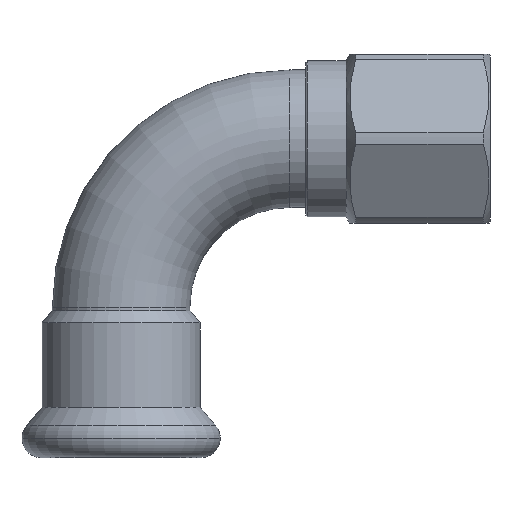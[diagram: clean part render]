
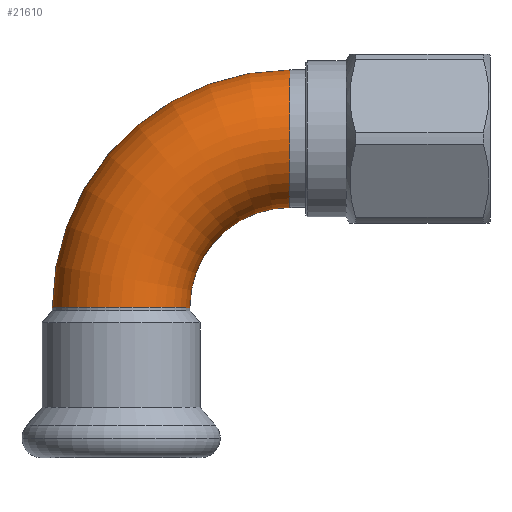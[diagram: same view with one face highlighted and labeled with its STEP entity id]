
A CAD part, top view. The second image highlights one B-rep face of the part: STEP entity #21610.
In plain terms, the highlighted toroidal (fillet/blend) face has major radius 27 mm and minor radius 11 mm.
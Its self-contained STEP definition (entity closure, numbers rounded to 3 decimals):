
#15160=CARTESIAN_POINT('',(-102.071,-225.006,
0.));
#15170=VERTEX_POINT('',#15160);
#15220=CARTESIAN_POINT('',(-113.071,-225.006,
0.));
#15230=DIRECTION('',(0.,-1.,0.));
#15240=DIRECTION('',(1.,0.,0.));
#15250=AXIS2_PLACEMENT_3D('',#15220,#15230,#15240);
#15260=CIRCLE('',#15250,11.);
#15270=CARTESIAN_POINT('',(-124.071,-225.006,
0.));
#15280=VERTEX_POINT('',#15270);
#15580=CARTESIAN_POINT('',(-86.071,-209.006,
0.));
#15590=VERTEX_POINT('',#15580);
#15670=CARTESIAN_POINT('',(-86.071,-187.006,
0.));
#15680=VERTEX_POINT('',#15670);
#15810=CARTESIAN_POINT('',(-86.071,-225.006,
0.));
#15820=DIRECTION('',(0.,0.,1.));
#15830=DIRECTION('',(0.,1.,0.));
#15840=AXIS2_PLACEMENT_3D('',#15810,#15820,#15830);
#15850=TOROIDAL_SURFACE('',#15840,27.,11.);
#15860=CARTESIAN_POINT('',(-86.071,-225.006,
0.));
#15870=DIRECTION('',(0.,0.,1.));
#15880=DIRECTION('',(0.,1.,0.));
#15890=AXIS2_PLACEMENT_3D('',#15860,#15870,#15880);
#15900=CIRCLE('',#15890,16.);
#15910=EDGE_CURVE('',#15590,#15170,#15900,.T.);
#15940=CARTESIAN_POINT('',(-86.071,-225.006,
0.));
#15950=DIRECTION('',(0.,0.,1.));
#15960=DIRECTION('',(0.,1.,0.));
#15970=AXIS2_PLACEMENT_3D('',#15940,#15950,#15960);
#15980=CIRCLE('',#15970,38.);
#15990=EDGE_CURVE('',#15680,#15280,#15980,.T.);
#21080=CARTESIAN_POINT('',(-86.071,-198.006,
0.));
#21090=DIRECTION('',(-1.,0.,0.));
#21100=DIRECTION('',(0.,-1.,0.));
#21110=AXIS2_PLACEMENT_3D('',#21080,#21090,#21100);
#21120=CIRCLE('',#21110,11.);
#21130=EDGE_CURVE('',#15590,#15680,#21120,.T.);
#21460=EDGE_CURVE('',#15170,#15280,#15260,.T.);
#21550=ORIENTED_EDGE('',*,*,#21460,.F.);
#21560=ORIENTED_EDGE('',*,*,#15990,.T.);
#21570=ORIENTED_EDGE('',*,*,#21130,.T.);
#21580=ORIENTED_EDGE('',*,*,#15910,.F.);
#21590=EDGE_LOOP('',(#21580,#21570,#21560,#21550));
#21600=FACE_OUTER_BOUND('',#21590,.T.);
#21610=ADVANCED_FACE('',(#21600),#15850,.T.);
